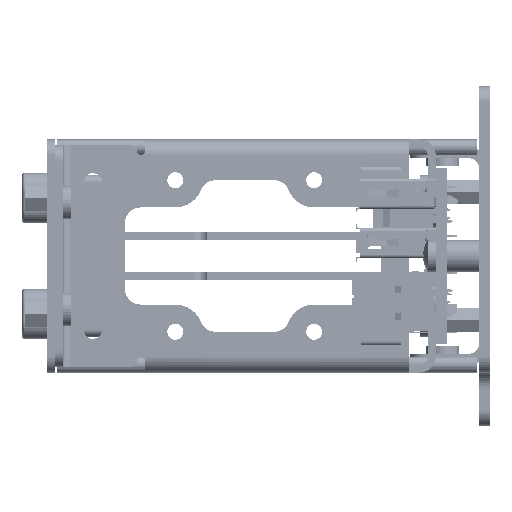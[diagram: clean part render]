
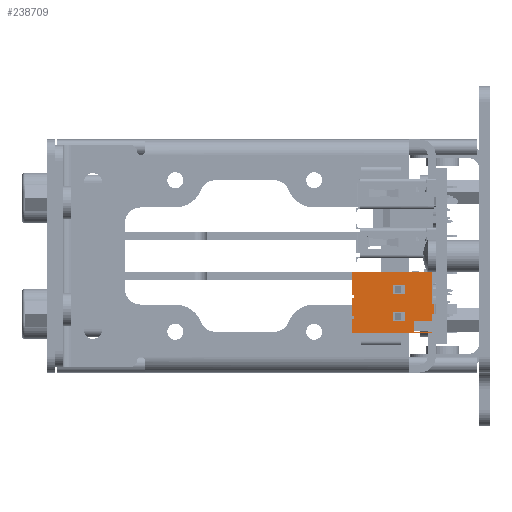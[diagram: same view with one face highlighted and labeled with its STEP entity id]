
A CAD part, left-side view. The second image highlights one B-rep face of the part: STEP entity #238709.
In plain terms, the highlighted planar face has unit normal (-1, 0, 0) as drawn and (1, 0, 0) by its records, which use the part's own axes.
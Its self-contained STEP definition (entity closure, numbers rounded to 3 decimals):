
#231414=DIRECTION('',(0.,-1.,0.));
#231415=VECTOR('',#231414,5.858);
#231416=CARTESIAN_POINT('',(6.013,5.728,-14.59));
#231417=LINE('',#231416,#231415);
#231418=DIRECTION('',(0.,0.,1.));
#231419=VECTOR('',#231418,0.36);
#231420=CARTESIAN_POINT('',(6.013,-2.17,-14.95));
#231421=LINE('',#231420,#231419);
#231422=DIRECTION('',(0.,-1.,0.));
#231423=VECTOR('',#231422,1.3);
#231424=CARTESIAN_POINT('',(6.013,-2.17,-14.59));
#231425=LINE('',#231424,#231423);
#231426=DIRECTION('',(0.,0.,1.));
#231427=VECTOR('',#231426,0.04);
#231428=CARTESIAN_POINT('',(6.013,-3.47,-14.59));
#231429=LINE('',#231428,#231427);
#231430=DIRECTION('',(0.,-1.,0.));
#231431=VECTOR('',#231430,1.49);
#231432=CARTESIAN_POINT('',(6.013,-3.47,-11.3));
#231433=LINE('',#231432,#231431);
#231434=DIRECTION('',(0.,-1.,0.));
#231435=VECTOR('',#231434,0.45);
#231436=CARTESIAN_POINT('',(6.013,-4.96,-11.3));
#231437=LINE('',#231436,#231435);
#231438=DIRECTION('',(0.,0.,1.));
#231439=VECTOR('',#231438,14.908);
#231440=CARTESIAN_POINT('',(6.013,-5.728,-14.59));
#231441=LINE('',#231440,#231439);
#231442=DIRECTION('',(0.,0.,-1.));
#231443=VECTOR('',#231442,0.318);
#231444=CARTESIAN_POINT('',(6.013,-3.05,0.318));
#231445=LINE('',#231444,#231443);
#231446=DIRECTION('',(0.,1.,0.));
#231447=VECTOR('',#231446,0.5);
#231448=CARTESIAN_POINT('',(6.013,-3.05,0.));
#231449=LINE('',#231448,#231447);
#231450=DIRECTION('',(0.,1.,0.));
#231451=VECTOR('',#231450,3.5);
#231452=CARTESIAN_POINT('',(6.013,-2.55,0.318));
#231453=LINE('',#231452,#231451);
#231454=DIRECTION('',(0.,0.,-1.));
#231455=VECTOR('',#231454,0.318);
#231456=CARTESIAN_POINT('',(6.013,0.95,0.318));
#231457=LINE('',#231456,#231455);
#231458=DIRECTION('',(0.,1.,0.));
#231459=VECTOR('',#231458,0.5);
#231460=CARTESIAN_POINT('',(6.013,0.95,0.));
#231461=LINE('',#231460,#231459);
#231462=DIRECTION('',(0.,0.,-1.));
#231463=VECTOR('',#231462,14.908);
#231464=CARTESIAN_POINT('',(6.013,5.728,0.318));
#231465=LINE('',#231464,#231463);
#231520=DIRECTION('',(0.,0.,1.));
#231521=VECTOR('',#231520,0.36);
#231522=CARTESIAN_POINT('',(6.013,-0.13,-14.95));
#231523=LINE('',#231522,#231521);
#231556=DIRECTION('',(0.,1.,0.));
#231557=VECTOR('',#231556,2.04);
#231558=CARTESIAN_POINT('',(6.013,-2.17,-14.95));
#231559=LINE('',#231558,#231557);
#231580=DIRECTION('',(0.,0.,-1.));
#231581=VECTOR('',#231580,3.25);
#231582=CARTESIAN_POINT('',(6.013,-3.47,-11.3));
#231583=LINE('',#231582,#231581);
#231777=DIRECTION('',(0.,0.,1.));
#231778=VECTOR('',#231777,3.29);
#231779=CARTESIAN_POINT('',(6.013,-5.41,-14.59));
#231780=LINE('',#231779,#231778);
#231853=DIRECTION('',(0.,1.,0.));
#231854=VECTOR('',#231853,0.318);
#231855=CARTESIAN_POINT('',(6.013,-5.728,-14.59));
#231856=LINE('',#231855,#231854);
#232964=DIRECTION('',(0.,-1.,0.));
#232965=VECTOR('',#232964,4.278);
#232966=CARTESIAN_POINT('',(6.013,5.728,0.318));
#232967=LINE('',#232966,#232965);
#232972=DIRECTION('',(0.,0.,-1.));
#232973=VECTOR('',#232972,0.318);
#232974=CARTESIAN_POINT('',(6.013,1.45,0.318));
#232975=LINE('',#232974,#232973);
#233156=DIRECTION('',(0.,0.,-1.));
#233157=VECTOR('',#233156,0.318);
#233158=CARTESIAN_POINT('',(6.013,-2.55,0.318));
#233159=LINE('',#233158,#233157);
#233735=DIRECTION('',(0.,-1.,0.));
#233736=VECTOR('',#233735,2.678);
#233737=CARTESIAN_POINT('',(6.013,-3.05,0.318));
#233738=LINE('',#233737,#233736);
#236068=DIRECTION('',(0.,0.,1.));
#236069=VECTOR('',#236068,2.11);
#236070=CARTESIAN_POINT('',(6.013,-3.328,-9.45));
#236071=LINE('',#236070,#236069);
#236076=DIRECTION('',(0.,1.,0.));
#236077=VECTOR('',#236076,1.65);
#236078=CARTESIAN_POINT('',(6.013,-3.328,-7.34));
#236079=LINE('',#236078,#236077);
#236084=DIRECTION('',(0.,0.,-1.));
#236085=VECTOR('',#236084,2.11);
#236086=CARTESIAN_POINT('',(6.013,-1.678,-7.34));
#236087=LINE('',#236086,#236085);
#236092=DIRECTION('',(0.,-1.,0.));
#236093=VECTOR('',#236092,1.65);
#236094=CARTESIAN_POINT('',(6.013,-1.678,-9.45));
#236095=LINE('',#236094,#236093);
#236100=DIRECTION('',(0.,0.,1.));
#236101=VECTOR('',#236100,2.11);
#236102=CARTESIAN_POINT('',(6.013,1.678,-9.45));
#236103=LINE('',#236102,#236101);
#236108=DIRECTION('',(0.,1.,0.));
#236109=VECTOR('',#236108,1.65);
#236110=CARTESIAN_POINT('',(6.013,1.678,-7.34));
#236111=LINE('',#236110,#236109);
#236116=DIRECTION('',(0.,0.,-1.));
#236117=VECTOR('',#236116,2.11);
#236118=CARTESIAN_POINT('',(6.013,3.328,-7.34));
#236119=LINE('',#236118,#236117);
#236124=DIRECTION('',(0.,-1.,0.));
#236125=VECTOR('',#236124,1.65);
#236126=CARTESIAN_POINT('',(6.013,3.328,-9.45));
#236127=LINE('',#236126,#236125);
#236468=CARTESIAN_POINT('',(6.013,0.95,0.));
#236469=VERTEX_POINT('',#236468);
#236470=CARTESIAN_POINT('',(6.013,0.95,0.318));
#236471=VERTEX_POINT('',#236470);
#236571=CARTESIAN_POINT('',(6.013,-2.17,-14.59));
#236573=VERTEX_POINT('',#236571);
#236576=CARTESIAN_POINT('',(6.013,-3.47,-14.59));
#236577=VERTEX_POINT('',#236576);
#236590=CARTESIAN_POINT('',(6.013,5.728,-14.59));
#236592=VERTEX_POINT('',#236590);
#236600=CARTESIAN_POINT('',(6.013,-0.13,-14.59));
#236601=VERTEX_POINT('',#236600);
#236602=CARTESIAN_POINT('',(6.013,-2.17,-14.95));
#236603=VERTEX_POINT('',#236602);
#236648=CARTESIAN_POINT('',(6.013,-0.13,-14.95));
#236649=VERTEX_POINT('',#236648);
#236650=CARTESIAN_POINT('',(6.013,-3.47,-14.55));
#236651=VERTEX_POINT('',#236650);
#236652=CARTESIAN_POINT('',(6.013,-3.47,-11.3));
#236653=VERTEX_POINT('',#236652);
#236654=CARTESIAN_POINT('',(6.013,-4.96,-11.3));
#236655=VERTEX_POINT('',#236654);
#236656=CARTESIAN_POINT('',(6.013,-5.41,-11.3));
#236657=VERTEX_POINT('',#236656);
#236658=CARTESIAN_POINT('',(6.013,-5.41,-14.59));
#236659=VERTEX_POINT('',#236658);
#236660=CARTESIAN_POINT('',(6.013,-5.728,-14.59));
#236661=VERTEX_POINT('',#236660);
#236662=CARTESIAN_POINT('',(6.013,-5.728,0.318));
#236663=VERTEX_POINT('',#236662);
#236664=CARTESIAN_POINT('',(6.013,-3.05,0.318));
#236665=VERTEX_POINT('',#236664);
#236666=CARTESIAN_POINT('',(6.013,-3.05,0.));
#236667=VERTEX_POINT('',#236666);
#236668=CARTESIAN_POINT('',(6.013,-2.55,0.));
#236669=VERTEX_POINT('',#236668);
#236670=CARTESIAN_POINT('',(6.013,-2.55,0.318));
#236671=VERTEX_POINT('',#236670);
#236672=CARTESIAN_POINT('',(6.013,1.45,0.));
#236673=VERTEX_POINT('',#236672);
#236674=CARTESIAN_POINT('',(6.013,1.45,0.318));
#236675=VERTEX_POINT('',#236674);
#236676=CARTESIAN_POINT('',(6.013,5.728,0.318));
#236677=VERTEX_POINT('',#236676);
#236678=CARTESIAN_POINT('',(6.013,-3.328,-9.45));
#236679=CARTESIAN_POINT('',(6.013,-3.328,-7.34));
#236680=VERTEX_POINT('',#236678);
#236681=VERTEX_POINT('',#236679);
#236682=CARTESIAN_POINT('',(6.013,-1.678,-9.45));
#236683=VERTEX_POINT('',#236682);
#236684=CARTESIAN_POINT('',(6.013,-1.678,-7.34));
#236685=VERTEX_POINT('',#236684);
#236686=CARTESIAN_POINT('',(6.013,1.678,-9.45));
#236687=CARTESIAN_POINT('',(6.013,1.678,-7.34));
#236688=VERTEX_POINT('',#236686);
#236689=VERTEX_POINT('',#236687);
#236690=CARTESIAN_POINT('',(6.013,3.328,-9.45));
#236691=VERTEX_POINT('',#236690);
#236692=CARTESIAN_POINT('',(6.013,3.328,-7.34));
#236693=VERTEX_POINT('',#236692);
#238642=CARTESIAN_POINT('',(6.013,1.45,0.));
#238643=DIRECTION('',(1.,0.,0.));
#238644=DIRECTION('',(0.,1.,0.));
#238645=AXIS2_PLACEMENT_3D('',#238642,#238643,#238644);
#238646=PLANE('',#238645);
#238647=ORIENTED_EDGE('',*,*,#238479,.T.);
#238649=ORIENTED_EDGE('',*,*,#238648,.F.);
#238651=ORIENTED_EDGE('',*,*,#238650,.F.);
#238652=ORIENTED_EDGE('',*,*,#238614,.T.);
#238653=ORIENTED_EDGE('',*,*,#238603,.T.);
#238655=ORIENTED_EDGE('',*,*,#238654,.T.);
#238657=ORIENTED_EDGE('',*,*,#238656,.F.);
#238659=ORIENTED_EDGE('',*,*,#238658,.T.);
#238661=ORIENTED_EDGE('',*,*,#238660,.T.);
#238663=ORIENTED_EDGE('',*,*,#238662,.F.);
#238665=ORIENTED_EDGE('',*,*,#238664,.F.);
#238667=ORIENTED_EDGE('',*,*,#238666,.T.);
#238669=ORIENTED_EDGE('',*,*,#238668,.F.);
#238671=ORIENTED_EDGE('',*,*,#238670,.T.);
#238673=ORIENTED_EDGE('',*,*,#238672,.T.);
#238675=ORIENTED_EDGE('',*,*,#238674,.F.);
#238677=ORIENTED_EDGE('',*,*,#238676,.T.);
#238679=ORIENTED_EDGE('',*,*,#238678,.T.);
#238681=ORIENTED_EDGE('',*,*,#238680,.T.);
#238683=ORIENTED_EDGE('',*,*,#238682,.F.);
#238685=ORIENTED_EDGE('',*,*,#238684,.F.);
#238686=ORIENTED_EDGE('',*,*,#238395,.T.);
#238687=EDGE_LOOP('',(#238647,#238649,#238651,#238652,#238653,#238655,#238657,
#238659,#238661,#238663,#238665,#238667,#238669,#238671,#238673,#238675,#238677,
#238679,#238681,#238683,#238685,#238686));
#238688=FACE_OUTER_BOUND('',#238687,.F.);
#238690=ORIENTED_EDGE('',*,*,#238689,.F.);
#238692=ORIENTED_EDGE('',*,*,#238691,.F.);
#238694=ORIENTED_EDGE('',*,*,#238693,.F.);
#238696=ORIENTED_EDGE('',*,*,#238695,.F.);
#238697=EDGE_LOOP('',(#238690,#238692,#238694,#238696));
#238698=FACE_BOUND('',#238697,.F.);
#238700=ORIENTED_EDGE('',*,*,#238699,.F.);
#238702=ORIENTED_EDGE('',*,*,#238701,.F.);
#238704=ORIENTED_EDGE('',*,*,#238703,.F.);
#238706=ORIENTED_EDGE('',*,*,#238705,.F.);
#238707=EDGE_LOOP('',(#238700,#238702,#238704,#238706));
#238708=FACE_BOUND('',#238707,.F.);
#238395=EDGE_CURVE('',#236677,#236592,#231465,.T.);
#238479=EDGE_CURVE('',#236592,#236601,#231417,.T.);
#238603=EDGE_CURVE('',#236573,#236577,#231425,.T.);
#238614=EDGE_CURVE('',#236603,#236573,#231421,.T.);
#238648=EDGE_CURVE('',#236649,#236601,#231523,.T.);
#238650=EDGE_CURVE('',#236603,#236649,#231559,.T.);
#238654=EDGE_CURVE('',#236577,#236651,#231429,.T.);
#238656=EDGE_CURVE('',#236653,#236651,#231583,.T.);
#238658=EDGE_CURVE('',#236653,#236655,#231433,.T.);
#238660=EDGE_CURVE('',#236655,#236657,#231437,.T.);
#238662=EDGE_CURVE('',#236659,#236657,#231780,.T.);
#238664=EDGE_CURVE('',#236661,#236659,#231856,.T.);
#238666=EDGE_CURVE('',#236661,#236663,#231441,.T.);
#238668=EDGE_CURVE('',#236665,#236663,#233738,.T.);
#238670=EDGE_CURVE('',#236665,#236667,#231445,.T.);
#238672=EDGE_CURVE('',#236667,#236669,#231449,.T.);
#238674=EDGE_CURVE('',#236671,#236669,#233159,.T.);
#238676=EDGE_CURVE('',#236671,#236471,#231453,.T.);
#238678=EDGE_CURVE('',#236471,#236469,#231457,.T.);
#238680=EDGE_CURVE('',#236469,#236673,#231461,.T.);
#238682=EDGE_CURVE('',#236675,#236673,#232975,.T.);
#238684=EDGE_CURVE('',#236677,#236675,#232967,.T.);
#238689=EDGE_CURVE('',#236680,#236681,#236071,.T.);
#238691=EDGE_CURVE('',#236683,#236680,#236095,.T.);
#238693=EDGE_CURVE('',#236685,#236683,#236087,.T.);
#238695=EDGE_CURVE('',#236681,#236685,#236079,.T.);
#238699=EDGE_CURVE('',#236688,#236689,#236103,.T.);
#238701=EDGE_CURVE('',#236691,#236688,#236127,.T.);
#238703=EDGE_CURVE('',#236693,#236691,#236119,.T.);
#238705=EDGE_CURVE('',#236689,#236693,#236111,.T.);
#238709=ADVANCED_FACE('',(#238688,#238698,#238708),#238646,.T.);
